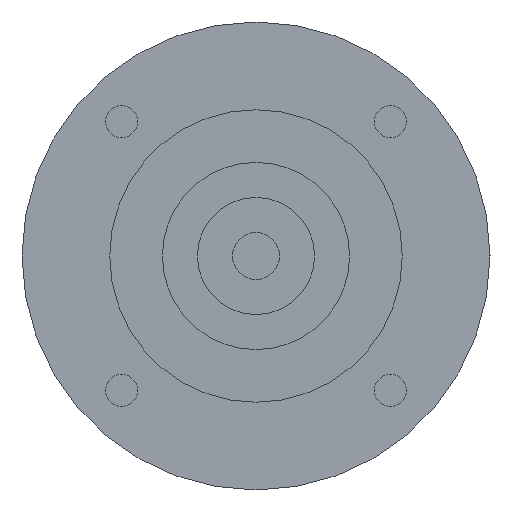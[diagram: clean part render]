
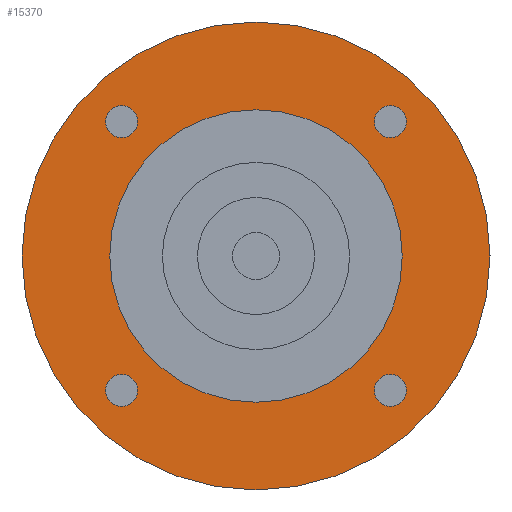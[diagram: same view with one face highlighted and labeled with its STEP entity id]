
A CAD part, left-side view. The second image highlights one B-rep face of the part: STEP entity #15370.
In plain terms, the highlighted planar face has unit normal (-1, 0, 0) as drawn and (0, 0, -1) by its records, which use the part's own axes.
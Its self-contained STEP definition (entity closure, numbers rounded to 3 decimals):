
#14040=CARTESIAN_POINT('',(40.,0.,-91.));
#14050=VERTEX_POINT('',#14040);
#14080=CARTESIAN_POINT('',(0.,0.,
-91.));
#14090=DIRECTION('',(0.,0.,1.));
#14100=DIRECTION('',(0.,-1.,0.));
#14110=AXIS2_PLACEMENT_3D('',#14080,#14090,#14100);
#14120=CIRCLE('',#14110,40.);
#14130=CARTESIAN_POINT('',(0.,-40.,-91.));
#14140=VERTEX_POINT('',#14130);
#14150=EDGE_CURVE('',#14140,#14050,#14120,.T.);
#14170=CARTESIAN_POINT('',(-40.,0.,-91.));
#14180=VERTEX_POINT('',#14170);
#14190=EDGE_CURVE('',#14180,#14140,#14120,.T.);
#14310=CARTESIAN_POINT('',(0.,0.,
-91.));
#14320=DIRECTION('',(0.,0.,1.));
#14330=DIRECTION('',(-1.,0.,0.));
#14340=AXIS2_PLACEMENT_3D('',#14310,#14320,#14330);
#14350=PLANE('',#14340);
#14360=CARTESIAN_POINT('',(22.981,-22.981,-91.));
#14370=DIRECTION('',(0.,0.,-1.));
#14380=DIRECTION('',(1.,0.,0.));
#14390=AXIS2_PLACEMENT_3D('',#14360,#14370,#14380);
#14400=CIRCLE('',#14390,2.75);
#14410=CARTESIAN_POINT('',(25.731,-22.981,-91.));
#14420=VERTEX_POINT('',#14410);
#14430=CARTESIAN_POINT('',(22.981,-25.731,-91.));
#14440=VERTEX_POINT('',#14430);
#14450=EDGE_CURVE('',#14420,#14440,#14400,.T.);
#14460=ORIENTED_EDGE('',*,*,#14450,.F.);
#14470=CARTESIAN_POINT('',(22.981,-20.231,-91.));
#14480=VERTEX_POINT('',#14470);
#14490=EDGE_CURVE('',#14440,#14480,#14400,.T.);
#14500=ORIENTED_EDGE('',*,*,#14490,.F.);
#14510=EDGE_CURVE('',#14480,#14420,#14400,.T.);
#14520=ORIENTED_EDGE('',*,*,#14510,.F.);
#14530=EDGE_LOOP('',(#14520,#14500,#14460));
#14540=FACE_BOUND('',#14530,.T.);
#14550=CARTESIAN_POINT('',(22.981,22.981,-91.));
#14560=DIRECTION('',(0.,0.,-1.));
#14570=DIRECTION('',(0.,1.,0.));
#14580=AXIS2_PLACEMENT_3D('',#14550,#14560,#14570);
#14590=CIRCLE('',#14580,2.75);
#14600=CARTESIAN_POINT('',(22.981,25.731,-91.));
#14610=VERTEX_POINT('',#14600);
#14620=CARTESIAN_POINT('',(25.731,22.981,-91.));
#14630=VERTEX_POINT('',#14620);
#14640=EDGE_CURVE('',#14610,#14630,#14590,.T.);
#14650=ORIENTED_EDGE('',*,*,#14640,.F.);
#14660=CARTESIAN_POINT('',(20.231,22.981,-91.));
#14670=VERTEX_POINT('',#14660);
#14680=EDGE_CURVE('',#14630,#14670,#14590,.T.);
#14690=ORIENTED_EDGE('',*,*,#14680,.F.);
#14700=EDGE_CURVE('',#14670,#14610,#14590,.T.);
#14710=ORIENTED_EDGE('',*,*,#14700,.F.);
#14720=EDGE_LOOP('',(#14710,#14690,#14650));
#14730=FACE_BOUND('',#14720,.T.);
#14740=CARTESIAN_POINT('',(-22.981,22.981,-91.));
#14750=DIRECTION('',(0.,0.,-1.));
#14760=DIRECTION('',(-1.,0.,0.));
#14770=AXIS2_PLACEMENT_3D('',#14740,#14750,#14760);
#14780=CIRCLE('',#14770,2.75);
#14790=CARTESIAN_POINT('',(-25.731,22.981,-91.));
#14800=VERTEX_POINT('',#14790);
#14810=CARTESIAN_POINT('',(-22.981,25.731,-91.));
#14820=VERTEX_POINT('',#14810);
#14830=EDGE_CURVE('',#14800,#14820,#14780,.T.);
#14840=ORIENTED_EDGE('',*,*,#14830,.F.);
#14850=CARTESIAN_POINT('',(-22.981,20.231,-91.));
#14860=VERTEX_POINT('',#14850);
#14870=EDGE_CURVE('',#14820,#14860,#14780,.T.);
#14880=ORIENTED_EDGE('',*,*,#14870,.F.);
#14890=EDGE_CURVE('',#14860,#14800,#14780,.T.);
#14900=ORIENTED_EDGE('',*,*,#14890,.F.);
#14910=EDGE_LOOP('',(#14900,#14880,#14840));
#14920=FACE_BOUND('',#14910,.T.);
#14930=CARTESIAN_POINT('',(-22.981,-22.981,-91.));
#14940=DIRECTION('',(0.,0.,-1.));
#14950=DIRECTION('',(0.,-1.,0.));
#14960=AXIS2_PLACEMENT_3D('',#14930,#14940,#14950);
#14970=CIRCLE('',#14960,2.75);
#14980=CARTESIAN_POINT('',(-22.981,-25.731,-91.));
#14990=VERTEX_POINT('',#14980);
#15000=CARTESIAN_POINT('',(-25.731,-22.981,-91.));
#15010=VERTEX_POINT('',#15000);
#15020=EDGE_CURVE('',#14990,#15010,#14970,.T.);
#15030=ORIENTED_EDGE('',*,*,#15020,.F.);
#15040=CARTESIAN_POINT('',(-20.231,-22.981,-91.));
#15050=VERTEX_POINT('',#15040);
#15060=EDGE_CURVE('',#15010,#15050,#14970,.T.);
#15070=ORIENTED_EDGE('',*,*,#15060,.F.);
#15080=EDGE_CURVE('',#15050,#14990,#14970,.T.);
#15090=ORIENTED_EDGE('',*,*,#15080,.F.);
#15100=EDGE_LOOP('',(#15090,#15070,#15030));
#15110=FACE_BOUND('',#15100,.T.);
#15120=ORIENTED_EDGE('',*,*,#14150,.F.);
#15130=EDGE_CURVE('',#14050,#14180,#14120,.T.);
#15140=ORIENTED_EDGE('',*,*,#15130,.F.);
#15150=ORIENTED_EDGE('',*,*,#14190,.F.);
#15160=EDGE_LOOP('',(#15150,#15140,#15120));
#15170=FACE_OUTER_BOUND('',#15160,.T.);
#15180=CARTESIAN_POINT('',(0.,0.,
-91.));
#15190=DIRECTION('',(0.,0.,1.));
#15200=DIRECTION('',(0.,-1.,0.));
#15210=AXIS2_PLACEMENT_3D('',#15180,#15190,#15200);
#15220=CIRCLE('',#15210,25.);
#15230=CARTESIAN_POINT('',(25.,0.,-91.));
#15240=VERTEX_POINT('',#15230);
#15250=CARTESIAN_POINT('',(-25.,0.,-91.));
#15260=VERTEX_POINT('',#15250);
#15270=EDGE_CURVE('',#15240,#15260,#15220,.T.);
#15280=ORIENTED_EDGE('',*,*,#15270,.T.);
#15290=CARTESIAN_POINT('',(0.,-25.,-91.));
#15300=VERTEX_POINT('',#15290);
#15310=EDGE_CURVE('',#15300,#15240,#15220,.T.);
#15320=ORIENTED_EDGE('',*,*,#15310,.T.);
#15330=EDGE_CURVE('',#15260,#15300,#15220,.T.);
#15340=ORIENTED_EDGE('',*,*,#15330,.T.);
#15350=EDGE_LOOP('',(#15340,#15320,#15280));
#15360=FACE_BOUND('',#15350,.T.);
#15370=ADVANCED_FACE('',(#14540,#14730,#14920,#15110,#15170,#15360),
#14350,.F.);
